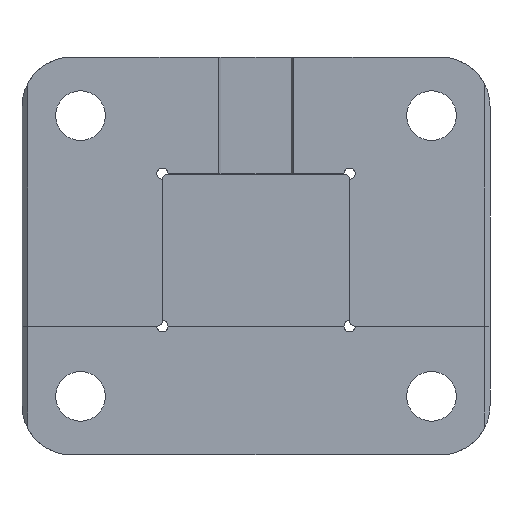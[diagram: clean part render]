
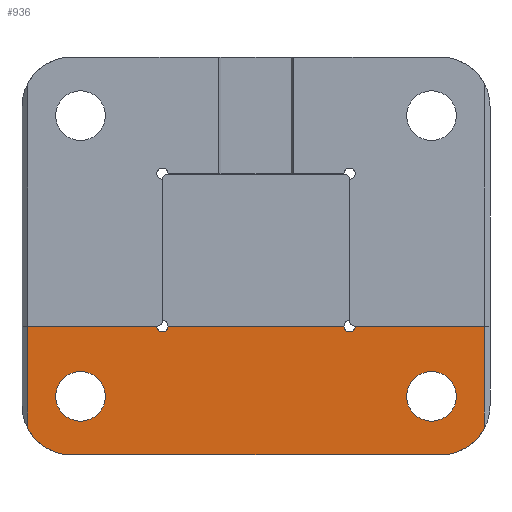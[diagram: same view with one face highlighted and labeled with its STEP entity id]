
A CAD part, front view. The second image highlights one B-rep face of the part: STEP entity #936.
In plain terms, the highlighted planar face has unit normal (0, -1, 0).
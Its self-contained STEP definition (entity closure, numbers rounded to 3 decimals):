
#38=PLANE('',#1026);
#71=CIRCLE('',#1012,1.524);
#77=CIRCLE('',#1024,1.524);
#79=CIRCLE('',#1027,6.731);
#80=CIRCLE('',#1028,6.731);
#81=CIRCLE('',#1029,13.487);
#82=CIRCLE('',#1030,13.487);
#143=ORIENTED_EDGE('',*,*,#397,.F.);
#144=ORIENTED_EDGE('',*,*,#398,.F.);
#145=ORIENTED_EDGE('',*,*,#399,.F.);
#146=ORIENTED_EDGE('',*,*,#400,.T.);
#147=ORIENTED_EDGE('',*,*,#401,.F.);
#148=ORIENTED_EDGE('',*,*,#394,.T.);
#149=ORIENTED_EDGE('',*,*,#402,.F.);
#150=ORIENTED_EDGE('',*,*,#376,.T.);
#151=ORIENTED_EDGE('',*,*,#403,.F.);
#152=ORIENTED_EDGE('',*,*,#404,.F.);
#153=ORIENTED_EDGE('',*,*,#405,.F.);
#154=ORIENTED_EDGE('',*,*,#406,.F.);
#376=EDGE_CURVE('',#501,#506,#71,.T.);
#394=EDGE_CURVE('',#519,#518,#77,.T.);
#397=EDGE_CURVE('',#521,#521,#79,.T.);
#398=EDGE_CURVE('',#522,#522,#80,.T.);
#399=EDGE_CURVE('',#523,#524,#81,.T.);
#400=EDGE_CURVE('',#523,#525,#609,.T.);
#401=EDGE_CURVE('',#519,#525,#610,.T.);
#402=EDGE_CURVE('',#501,#518,#611,.T.);
#403=EDGE_CURVE('',#526,#506,#612,.T.);
#404=EDGE_CURVE('',#527,#526,#613,.T.);
#405=EDGE_CURVE('',#528,#527,#82,.T.);
#406=EDGE_CURVE('',#524,#528,#614,.T.);
#501=VERTEX_POINT('',#1404);
#506=VERTEX_POINT('',#1413);
#518=VERTEX_POINT('',#1449);
#519=VERTEX_POINT('',#1451);
#521=VERTEX_POINT('',#1457);
#522=VERTEX_POINT('',#1459);
#523=VERTEX_POINT('',#1461);
#524=VERTEX_POINT('',#1462);
#525=VERTEX_POINT('',#1464);
#526=VERTEX_POINT('',#1468);
#527=VERTEX_POINT('',#1470);
#528=VERTEX_POINT('',#1472);
#609=LINE('',#1463,#693);
#610=LINE('',#1465,#694);
#611=LINE('',#1466,#695);
#612=LINE('',#1467,#696);
#613=LINE('',#1469,#697);
#614=LINE('',#1473,#698);
#693=VECTOR('',#1171,1000.);
#694=VECTOR('',#1172,1000.);
#695=VECTOR('',#1173,1000.);
#696=VECTOR('',#1174,1000.);
#697=VECTOR('',#1175,1000.);
#698=VECTOR('',#1178,1000.);
#768=EDGE_LOOP('',(#143));
#769=EDGE_LOOP('',(#144));
#770=EDGE_LOOP('',(#145,#146,#147,#148,#149,#150,#151,#152,#153,#154));
#842=FACE_BOUND('',#768,.T.);
#843=FACE_BOUND('',#769,.T.);
#844=FACE_BOUND('',#770,.T.);
#936=ADVANCED_FACE('',(#842,#843,#844),#38,.F.);
#1012=AXIS2_PLACEMENT_3D('',#1414,#1122,#1123);
#1024=AXIS2_PLACEMENT_3D('',#1450,#1158,#1159);
#1026=AXIS2_PLACEMENT_3D('',#1455,#1163,#1164);
#1027=AXIS2_PLACEMENT_3D('',#1456,#1165,#1166);
#1028=AXIS2_PLACEMENT_3D('',#1458,#1167,#1168);
#1029=AXIS2_PLACEMENT_3D('',#1460,#1169,#1170);
#1030=AXIS2_PLACEMENT_3D('',#1471,#1176,#1177);
#1122=DIRECTION('',(0.,1.,0.));
#1123=DIRECTION('',(1.,0.,0.));
#1158=DIRECTION('',(0.,1.,0.));
#1159=DIRECTION('',(1.,0.,0.));
#1163=DIRECTION('',(0.,1.,0.));
#1164=DIRECTION('',(0.,0.,1.));
#1165=DIRECTION('',(0.,-1.,0.));
#1166=DIRECTION('',(0.,0.,-1.));
#1167=DIRECTION('',(0.,-1.,0.));
#1168=DIRECTION('',(0.,0.,-1.));
#1169=DIRECTION('',(0.,1.,0.));
#1170=DIRECTION('',(1.,0.,0.));
#1171=DIRECTION('',(0.,0.,1.));
#1172=DIRECTION('',(1.,0.,0.));
#1173=DIRECTION('',(1.,0.,0.));
#1174=DIRECTION('',(1.,0.,0.));
#1175=DIRECTION('',(0.,0.,1.));
#1176=DIRECTION('',(0.,1.,0.));
#1177=DIRECTION('',(1.,0.,0.));
#1178=DIRECTION('',(-1.,0.,0.));
#1404=CARTESIAN_POINT('',(-23.876,0.,0.));
#1413=CARTESIAN_POINT('',(-26.924,0.,0.));
#1414=CARTESIAN_POINT('',(-25.4,0.,0.));
#1449=CARTESIAN_POINT('',(23.876,0.,0.));
#1450=CARTESIAN_POINT('',(25.4,0.,0.));
#1451=CARTESIAN_POINT('',(26.924,0.,0.));
#1455=CARTESIAN_POINT('',(-50.013,0.,-21.438));
#1456=CARTESIAN_POINT('',(-47.625,0.,-19.05));
#1457=CARTESIAN_POINT('',(-47.625,0.,-25.781));
#1458=CARTESIAN_POINT('',(47.625,0.,-19.05));
#1459=CARTESIAN_POINT('',(47.625,0.,-25.781));
#1460=CARTESIAN_POINT('',(50.013,0.,-21.438));
#1461=CARTESIAN_POINT('',(61.976,0.,-27.666));
#1462=CARTESIAN_POINT('',(50.013,0.,-34.925));
#1463=CARTESIAN_POINT('',(61.976,0.,-34.925));
#1464=CARTESIAN_POINT('',(61.976,0.,0.));
#1465=CARTESIAN_POINT('',(26.924,0.,0.));
#1466=CARTESIAN_POINT('',(-50.013,0.,0.));
#1467=CARTESIAN_POINT('',(-63.5,0.,0.));
#1468=CARTESIAN_POINT('',(-61.976,0.,0.));
#1469=CARTESIAN_POINT('',(-61.976,0.,-34.925));
#1470=CARTESIAN_POINT('',(-61.976,0.,-27.666));
#1471=CARTESIAN_POINT('',(-50.013,0.,-21.438));
#1472=CARTESIAN_POINT('',(-50.013,0.,-34.925));
#1473=CARTESIAN_POINT('',(50.013,0.,-34.925));
